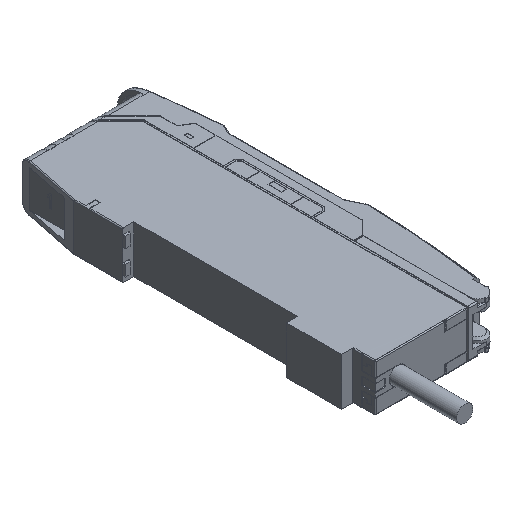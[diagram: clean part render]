
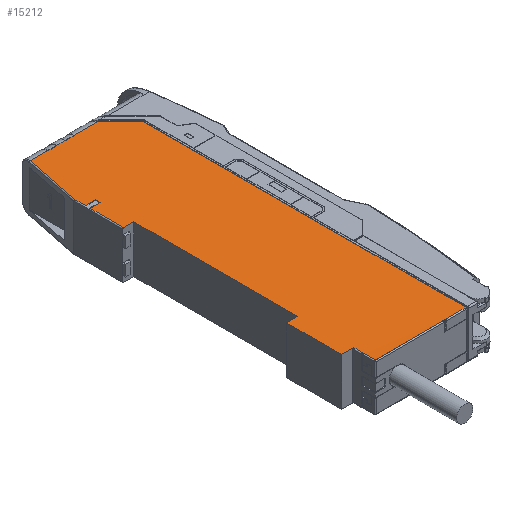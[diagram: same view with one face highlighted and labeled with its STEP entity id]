
A CAD part, isometric view. The second image highlights one B-rep face of the part: STEP entity #15212.
In plain terms, the highlighted planar face has unit normal (0, 0, 1).
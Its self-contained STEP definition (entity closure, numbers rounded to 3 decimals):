
#3467=DIRECTION('',(1.,0.,0.));
#3468=VECTOR('',#3467,4.614);
#3469=CARTESIAN_POINT('',(7.136,-63.95,4.149));
#3470=LINE('',#3469,#3468);
#3475=DIRECTION('',(0.,1.,0.));
#3476=VECTOR('',#3475,36.882);
#3477=CARTESIAN_POINT('',(-8.95,-46.75,4.149));
#3478=LINE('',#3477,#3476);
#3479=DIRECTION('',(-1.,0.009,0.));
#3480=VECTOR('',#3479,2.3);
#3481=CARTESIAN_POINT('',(-8.95,-9.868,4.149));
#3482=LINE('',#3481,#3480);
#3483=DIRECTION('',(0.,1.,0.));
#3484=VECTOR('',#3483,1.);
#3485=CARTESIAN_POINT('',(-8.95,-2.25,4.149));
#3486=LINE('',#3485,#3484);
#3487=DIRECTION('',(-1.,0.,0.));
#3488=VECTOR('',#3487,2.3);
#3489=CARTESIAN_POINT('',(-8.95,-1.25,4.149));
#3490=LINE('',#3489,#3488);
#3491=DIRECTION('',(0.,1.,0.));
#3492=VECTOR('',#3491,2.392);
#3493=CARTESIAN_POINT('',(-11.25,-1.25,4.149));
#3494=LINE('',#3493,#3492);
#3495=DIRECTION('',(0.196,0.981,0.));
#3496=VECTOR('',#3495,12.858);
#3497=CARTESIAN_POINT('',(-11.25,1.142,4.149));
#3498=LINE('',#3497,#3496);
#3499=DIRECTION('',(1.,0.,0.));
#3500=VECTOR('',#3499,3.978);
#3501=CARTESIAN_POINT('',(-8.728,13.75,4.149));
#3502=LINE('',#3501,#3500);
#3503=DIRECTION('',(1.,0.,0.));
#3504=VECTOR('',#3503,2.);
#3505=CARTESIAN_POINT('',(-4.75,13.75,4.149));
#3506=LINE('',#3505,#3504);
#3507=DIRECTION('',(1.,0.,0.));
#3508=VECTOR('',#3507,2.);
#3509=CARTESIAN_POINT('',(-0.75,13.75,4.149));
#3510=LINE('',#3509,#3508);
#3511=DIRECTION('',(0.707,-0.707,0.));
#3512=VECTOR('',#3511,7.06);
#3513=CARTESIAN_POINT('',(6.699,13.75,4.149));
#3514=LINE('',#3513,#3512);
#3515=CARTESIAN_POINT('',(11.55,8.617,4.149));
#3516=DIRECTION('',(0.,0.,-1.));
#3517=DIRECTION('',(0.707,0.707,0.));
#3518=AXIS2_PLACEMENT_3D('',#3515,#3516,#3517);
#3520=DIRECTION('',(0.,-1.,0.));
#3521=VECTOR('',#3520,72.567);
#3522=CARTESIAN_POINT('',(11.75,8.617,4.149));
#3523=LINE('',#3522,#3521);
#3524=DIRECTION('',(-1.,0.,0.));
#3525=VECTOR('',#3524,15.863);
#3526=CARTESIAN_POINT('',(7.136,-63.95,4.149));
#3527=LINE('',#3526,#3525);
#3528=DIRECTION('',(0.,1.,-0.001));
#3529=VECTOR('',#3528,2.5);
#3530=CARTESIAN_POINT('',(-8.728,-63.95,4.149));
#3531=LINE('',#3530,#3529);
#3532=DIRECTION('',(0.,1.,0.007));
#3533=VECTOR('',#3532,0.3);
#3534=CARTESIAN_POINT('',(-8.728,-61.45,4.147));
#3535=LINE('',#3534,#3533);
#3536=DIRECTION('',(-1.,0.009,0.));
#3537=VECTOR('',#3536,2.723);
#3538=CARTESIAN_POINT('',(-8.728,-59.152,
4.149));
#3539=LINE('',#3538,#3537);
#3540=DIRECTION('',(1.,0.009,0.));
#3541=VECTOR('',#3540,2.5);
#3542=CARTESIAN_POINT('',(-11.45,-46.772,4.149));
#3543=LINE('',#3542,#3541);
#3649=DIRECTION('',(0.,-1.,0.));
#3650=VECTOR('',#3649,12.356);
#3651=CARTESIAN_POINT('',(-11.45,-46.772,4.149));
#3652=LINE('',#3651,#3650);
#3665=DIRECTION('',(0.,-1.,0.));
#3666=VECTOR('',#3665,1.998);
#3667=CARTESIAN_POINT('',(-8.728,-59.152,
4.149));
#3668=LINE('',#3667,#3666);
#3909=CARTESIAN_POINT('',(-8.728,-63.95,4.149));
#4930=DIRECTION('',(-1.,0.,0.));
#4931=VECTOR('',#4930,5.449);
#4932=CARTESIAN_POINT('',(6.699,13.75,4.149));
#4933=LINE('',#4932,#4931);
#4938=DIRECTION('',(-1.,0.,0.));
#4939=VECTOR('',#4938,2.);
#4940=CARTESIAN_POINT('',(-0.75,13.75,4.149));
#4941=LINE('',#4940,#4939);
#4946=CARTESIAN_POINT('',(-8.728,13.75,4.149));
#5862=DIRECTION('',(0.,-1.,0.));
#5863=VECTOR('',#5862,7.598);
#5864=CARTESIAN_POINT('',(-11.25,-2.25,4.149));
#5865=LINE('',#5864,#5863);
#5883=DIRECTION('',(-1.,0.,0.));
#5884=VECTOR('',#5883,2.3);
#5885=CARTESIAN_POINT('',(-8.95,-2.25,4.149));
#5886=LINE('',#5885,#5884);
#8617=CARTESIAN_POINT('',(11.75,-63.95,4.149));
#8618=VERTEX_POINT('',#8617);
#8619=CARTESIAN_POINT('',(11.75,8.617,4.149));
#8620=VERTEX_POINT('',#8619);
#8722=VERTEX_POINT('',#3909);
#8723=CARTESIAN_POINT('',(7.136,-63.95,4.149));
#8724=VERTEX_POINT('',#8723);
#8814=CARTESIAN_POINT('',(-8.95,-9.868,4.149));
#8815=VERTEX_POINT('',#8814);
#8816=CARTESIAN_POINT('',(-8.95,-46.75,4.149));
#8817=VERTEX_POINT('',#8816);
#8818=CARTESIAN_POINT('',(-8.95,-1.25,4.149));
#8820=VERTEX_POINT('',#8818);
#8822=CARTESIAN_POINT('',(-8.95,-2.25,4.149));
#8823=VERTEX_POINT('',#8822);
#8858=VERTEX_POINT('',#4946);
#8884=CARTESIAN_POINT('',(-2.75,13.75,4.149));
#8886=VERTEX_POINT('',#8884);
#8888=CARTESIAN_POINT('',(-4.75,13.75,4.149));
#8889=VERTEX_POINT('',#8888);
#8892=CARTESIAN_POINT('',(1.25,13.75,4.149));
#8894=VERTEX_POINT('',#8892);
#8896=CARTESIAN_POINT('',(-0.75,13.75,4.149));
#8897=VERTEX_POINT('',#8896);
#8940=CARTESIAN_POINT('',(6.699,13.75,4.149));
#8941=VERTEX_POINT('',#8940);
#8952=CARTESIAN_POINT('',(-11.25,-9.848,4.149));
#8953=VERTEX_POINT('',#8952);
#8954=CARTESIAN_POINT('',(-11.25,-2.25,4.149));
#8955=VERTEX_POINT('',#8954);
#8956=CARTESIAN_POINT('',(-11.25,-1.25,4.149));
#8957=VERTEX_POINT('',#8956);
#8958=CARTESIAN_POINT('',(-11.25,1.142,4.149));
#8959=VERTEX_POINT('',#8958);
#8960=CARTESIAN_POINT('',(11.691,8.758,4.149));
#8961=VERTEX_POINT('',#8960);
#8962=CARTESIAN_POINT('',(-8.728,-61.45,4.147));
#8963=VERTEX_POINT('',#8962);
#8964=CARTESIAN_POINT('',(-8.728,-61.15,4.149));
#8965=VERTEX_POINT('',#8964);
#8966=CARTESIAN_POINT('',(-8.728,-59.152,
4.149));
#8967=VERTEX_POINT('',#8966);
#8968=CARTESIAN_POINT('',(-11.45,-59.128,4.149));
#8969=VERTEX_POINT('',#8968);
#8970=CARTESIAN_POINT('',(-11.45,-46.772,4.149));
#8971=VERTEX_POINT('',#8970);
#15161=CARTESIAN_POINT('',(-7.45,-52.15,4.149));
#15162=DIRECTION('',(0.,0.,1.));
#15163=DIRECTION('',(0.,-1.,0.));
#15164=AXIS2_PLACEMENT_3D('',#15161,#15162,#15163);
#15165=PLANE('',#15164);
#15167=ORIENTED_EDGE('',*,*,#15166,.T.);
#15169=ORIENTED_EDGE('',*,*,#15168,.T.);
#15171=ORIENTED_EDGE('',*,*,#15170,.F.);
#15173=ORIENTED_EDGE('',*,*,#15172,.F.);
#15175=ORIENTED_EDGE('',*,*,#15174,.T.);
#15177=ORIENTED_EDGE('',*,*,#15176,.T.);
#15179=ORIENTED_EDGE('',*,*,#15178,.T.);
#15181=ORIENTED_EDGE('',*,*,#15180,.T.);
#15183=ORIENTED_EDGE('',*,*,#15182,.T.);
#15185=ORIENTED_EDGE('',*,*,#15184,.T.);
#15187=ORIENTED_EDGE('',*,*,#15186,.F.);
#15189=ORIENTED_EDGE('',*,*,#15188,.T.);
#15191=ORIENTED_EDGE('',*,*,#15190,.F.);
#15192=ORIENTED_EDGE('',*,*,#11553,.T.);
#15194=ORIENTED_EDGE('',*,*,#15193,.T.);
#15195=ORIENTED_EDGE('',*,*,#14995,.T.);
#15196=ORIENTED_EDGE('',*,*,#15152,.F.);
#15197=ORIENTED_EDGE('',*,*,#15112,.T.);
#15199=ORIENTED_EDGE('',*,*,#15198,.T.);
#15201=ORIENTED_EDGE('',*,*,#15200,.T.);
#15203=ORIENTED_EDGE('',*,*,#15202,.F.);
#15205=ORIENTED_EDGE('',*,*,#15204,.T.);
#15207=ORIENTED_EDGE('',*,*,#15206,.F.);
#15209=ORIENTED_EDGE('',*,*,#15208,.T.);
#15210=EDGE_LOOP('',(#15167,#15169,#15171,#15173,#15175,#15177,#15179,#15181,
#15183,#15185,#15187,#15189,#15191,#15192,#15194,#15195,#15196,#15197,#15199,
#15201,#15203,#15205,#15207,#15209));
#15211=FACE_OUTER_BOUND('',#15210,.F.);
#15212=ADVANCED_FACE('',(#15211),#15165,.T.);
#3519=CIRCLE('',#3518,0.2);
#11553=EDGE_CURVE('',#8941,#8961,#3514,.T.);
#14995=EDGE_CURVE('',#8620,#8618,#3523,.T.);
#15112=EDGE_CURVE('',#8724,#8722,#3527,.T.);
#15152=EDGE_CURVE('',#8724,#8618,#3470,.T.);
#15166=EDGE_CURVE('',#8817,#8815,#3478,.T.);
#15168=EDGE_CURVE('',#8815,#8953,#3482,.T.);
#15170=EDGE_CURVE('',#8955,#8953,#5865,.T.);
#15172=EDGE_CURVE('',#8823,#8955,#5886,.T.);
#15174=EDGE_CURVE('',#8823,#8820,#3486,.T.);
#15176=EDGE_CURVE('',#8820,#8957,#3490,.T.);
#15178=EDGE_CURVE('',#8957,#8959,#3494,.T.);
#15180=EDGE_CURVE('',#8959,#8858,#3498,.T.);
#15182=EDGE_CURVE('',#8858,#8889,#3502,.T.);
#15184=EDGE_CURVE('',#8889,#8886,#3506,.T.);
#15186=EDGE_CURVE('',#8897,#8886,#4941,.T.);
#15188=EDGE_CURVE('',#8897,#8894,#3510,.T.);
#15190=EDGE_CURVE('',#8941,#8894,#4933,.T.);
#15193=EDGE_CURVE('',#8961,#8620,#3519,.T.);
#15198=EDGE_CURVE('',#8722,#8963,#3531,.T.);
#15200=EDGE_CURVE('',#8963,#8965,#3535,.T.);
#15202=EDGE_CURVE('',#8967,#8965,#3668,.T.);
#15204=EDGE_CURVE('',#8967,#8969,#3539,.T.);
#15206=EDGE_CURVE('',#8971,#8969,#3652,.T.);
#15208=EDGE_CURVE('',#8971,#8817,#3543,.T.);
